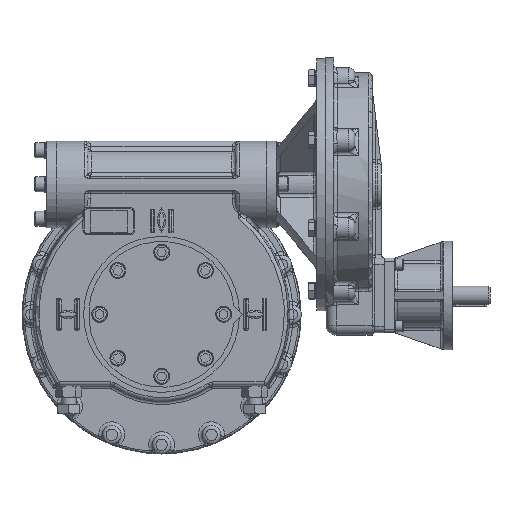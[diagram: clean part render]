
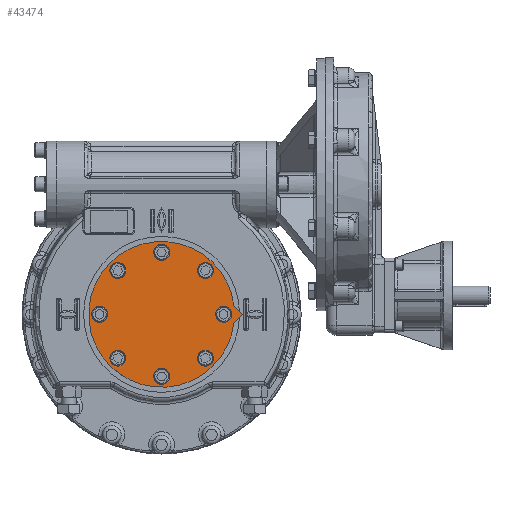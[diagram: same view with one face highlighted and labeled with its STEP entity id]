
A CAD part, top view. The second image highlights one B-rep face of the part: STEP entity #43474.
In plain terms, the highlighted planar face has unit normal (0, 0, 1).
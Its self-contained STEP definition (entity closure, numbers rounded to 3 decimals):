
#5645=LINE('',#108296,#9369);
#5647=LINE('',#108299,#9371);
#9369=VECTOR('',#58829,1000.);
#9371=VECTOR('',#58833,1000.);
#11080=CIRCLE('',#48969,117.5);
#11089=CIRCLE('',#48982,8.5);
#11090=CIRCLE('',#48983,8.5);
#11091=CIRCLE('',#48984,8.5);
#11092=CIRCLE('',#48985,8.5);
#11093=CIRCLE('',#48986,8.5);
#11094=CIRCLE('',#48987,8.5);
#11095=CIRCLE('',#48988,8.5);
#11096=CIRCLE('',#48989,8.5);
#21679=ORIENTED_EDGE('',*,*,#29209,.F.);
#21680=ORIENTED_EDGE('',*,*,#29210,.F.);
#21681=ORIENTED_EDGE('',*,*,#29211,.F.);
#21682=ORIENTED_EDGE('',*,*,#29212,.F.);
#21683=ORIENTED_EDGE('',*,*,#29213,.F.);
#21684=ORIENTED_EDGE('',*,*,#29214,.F.);
#21685=ORIENTED_EDGE('',*,*,#29215,.F.);
#21686=ORIENTED_EDGE('',*,*,#29216,.F.);
#21687=ORIENTED_EDGE('',*,*,#29194,.T.);
#21688=ORIENTED_EDGE('',*,*,#29198,.T.);
#21689=ORIENTED_EDGE('',*,*,#29200,.T.);
#29194=EDGE_CURVE('',#34910,#34909,#11080,.T.);
#29198=EDGE_CURVE('',#34909,#34912,#5645,.T.);
#29200=EDGE_CURVE('',#34912,#34910,#5647,.T.);
#29209=EDGE_CURVE('',#34921,#34921,#11089,.T.);
#29210=EDGE_CURVE('',#34922,#34922,#11090,.T.);
#29211=EDGE_CURVE('',#34923,#34923,#11091,.T.);
#29212=EDGE_CURVE('',#34924,#34924,#11092,.T.);
#29213=EDGE_CURVE('',#34925,#34925,#11093,.T.);
#29214=EDGE_CURVE('',#34926,#34926,#11094,.T.);
#29215=EDGE_CURVE('',#34927,#34927,#11095,.T.);
#29216=EDGE_CURVE('',#34928,#34928,#11096,.T.);
#34909=VERTEX_POINT('',#108287);
#34910=VERTEX_POINT('',#108289);
#34912=VERTEX_POINT('',#108295);
#34921=VERTEX_POINT('',#108319);
#34922=VERTEX_POINT('',#108321);
#34923=VERTEX_POINT('',#108323);
#34924=VERTEX_POINT('',#108325);
#34925=VERTEX_POINT('',#108327);
#34926=VERTEX_POINT('',#108329);
#34927=VERTEX_POINT('',#108331);
#34928=VERTEX_POINT('',#108333);
#38186=EDGE_LOOP('',(#21679));
#38187=EDGE_LOOP('',(#21680));
#38188=EDGE_LOOP('',(#21681));
#38189=EDGE_LOOP('',(#21682));
#38190=EDGE_LOOP('',(#21683));
#38191=EDGE_LOOP('',(#21684));
#38192=EDGE_LOOP('',(#21685));
#38193=EDGE_LOOP('',(#21686));
#38194=EDGE_LOOP('',(#21687,#21688,#21689));
#40489=FACE_BOUND('',#38186,.T.);
#40490=FACE_BOUND('',#38187,.T.);
#40491=FACE_BOUND('',#38188,.T.);
#40492=FACE_BOUND('',#38189,.T.);
#40493=FACE_BOUND('',#38190,.T.);
#40494=FACE_BOUND('',#38191,.T.);
#40495=FACE_BOUND('',#38192,.T.);
#40496=FACE_BOUND('',#38193,.T.);
#40497=FACE_BOUND('',#38194,.T.);
#41545=PLANE('',#48981);
#43474=ADVANCED_FACE('',(#40489,#40490,#40491,#40492,#40493,#40494,#40495,
#40496,#40497),#41545,.T.);
#48969=AXIS2_PLACEMENT_3D('',#108288,#58822,#58823);
#48981=AXIS2_PLACEMENT_3D('',#108317,#58852,#58853);
#48982=AXIS2_PLACEMENT_3D('',#108318,#58854,#58855);
#48983=AXIS2_PLACEMENT_3D('',#108320,#58856,#58857);
#48984=AXIS2_PLACEMENT_3D('',#108322,#58858,#58859);
#48985=AXIS2_PLACEMENT_3D('',#108324,#58860,#58861);
#48986=AXIS2_PLACEMENT_3D('',#108326,#58862,#58863);
#48987=AXIS2_PLACEMENT_3D('',#108328,#58864,#58865);
#48988=AXIS2_PLACEMENT_3D('',#108330,#58866,#58867);
#48989=AXIS2_PLACEMENT_3D('',#108332,#58868,#58869);
#58822=DIRECTION('',(0.,0.,1.));
#58823=DIRECTION('',(1.,0.,0.));
#58829=DIRECTION('',(0.707,0.707,0.));
#58833=DIRECTION('',(-0.707,0.707,0.));
#58852=DIRECTION('',(0.,0.,1.));
#58853=DIRECTION('',(0.,-1.,0.));
#58854=DIRECTION('',(0.,0.,1.));
#58855=DIRECTION('',(0.707,-0.707,0.));
#58856=DIRECTION('',(0.,0.,1.));
#58857=DIRECTION('',(1.,0.,0.));
#58858=DIRECTION('',(0.,0.,1.));
#58859=DIRECTION('',(0.707,0.707,0.));
#58860=DIRECTION('',(0.,0.,1.));
#58861=DIRECTION('',(0.,1.,0.));
#58862=DIRECTION('',(0.,0.,1.));
#58863=DIRECTION('',(-0.707,0.707,0.));
#58864=DIRECTION('',(0.,0.,1.));
#58865=DIRECTION('',(-1.,0.,0.));
#58866=DIRECTION('',(0.,0.,1.));
#58867=DIRECTION('',(-0.707,-0.707,0.));
#58868=DIRECTION('',(0.,0.,1.));
#58869=DIRECTION('',(0.,-1.,0.));
#108287=CARTESIAN_POINT('',(116.751,-13.249,65.25));
#108288=CARTESIAN_POINT('',(0.,0.,
65.25));
#108289=CARTESIAN_POINT('',(116.751,13.249,65.25));
#108295=CARTESIAN_POINT('',(130.,0.,65.25));
#108296=CARTESIAN_POINT('',(116.751,-13.249,65.25));
#108299=CARTESIAN_POINT('',(130.,0.,65.25));
#108317=CARTESIAN_POINT('',(0.,0.,
65.25));
#108318=CARTESIAN_POINT('',(70.711,70.711,65.25));
#108319=CARTESIAN_POINT('',(76.721,64.7,65.25));
#108320=CARTESIAN_POINT('',(0.,100.,65.25));
#108321=CARTESIAN_POINT('',(8.5,100.,65.25));
#108322=CARTESIAN_POINT('',(-70.711,70.711,65.25));
#108323=CARTESIAN_POINT('',(-64.7,76.721,65.25));
#108324=CARTESIAN_POINT('',(-100.,0.,65.25));
#108325=CARTESIAN_POINT('',(-100.,8.5,65.25));
#108326=CARTESIAN_POINT('',(-70.711,-70.711,65.25));
#108327=CARTESIAN_POINT('',(-76.721,-64.7,65.25));
#108328=CARTESIAN_POINT('',(0.,-100.,65.25));
#108329=CARTESIAN_POINT('',(-8.5,-100.,65.25));
#108330=CARTESIAN_POINT('',(70.711,-70.711,65.25));
#108331=CARTESIAN_POINT('',(64.7,-76.721,65.25));
#108332=CARTESIAN_POINT('',(100.,0.,65.25));
#108333=CARTESIAN_POINT('',(100.,-8.5,65.25));
